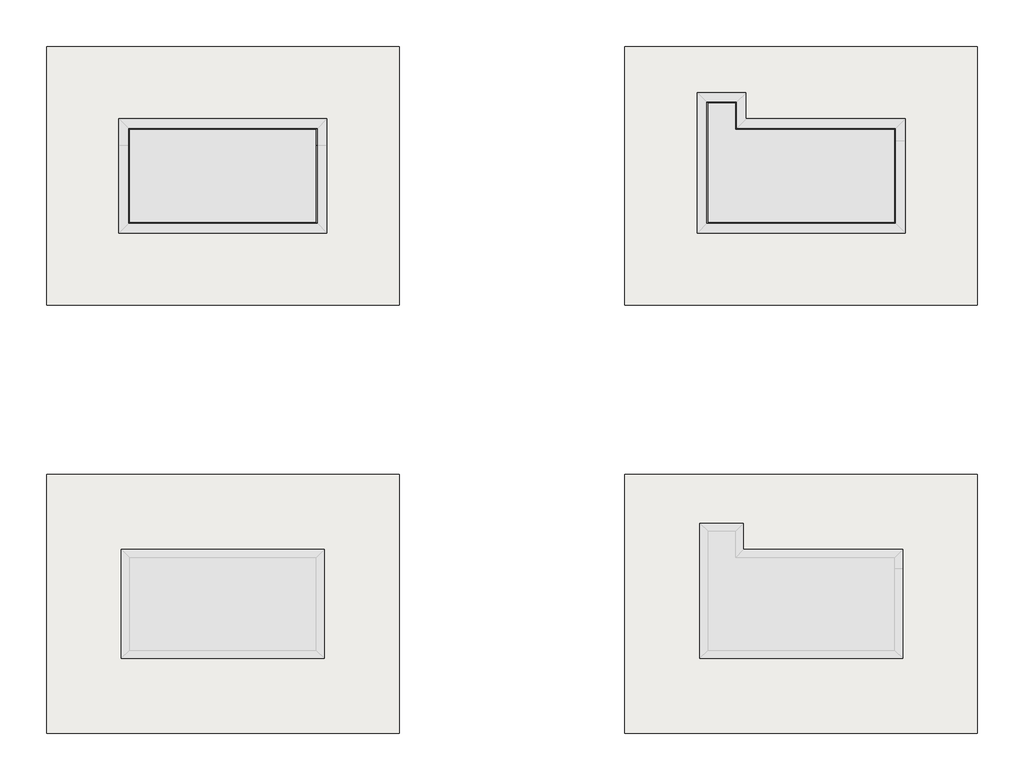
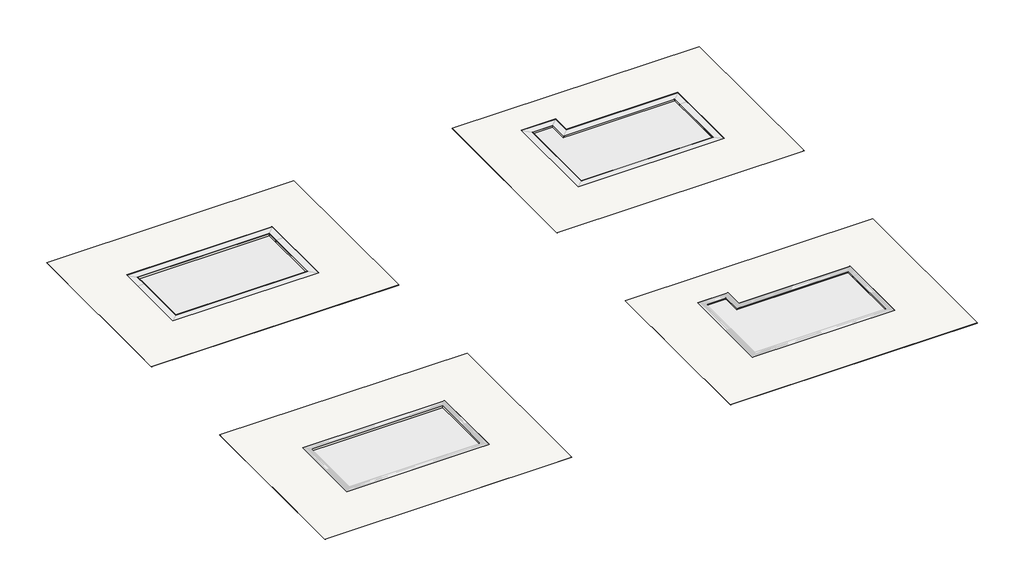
# One storey, part 1 of 5: 24 walls, 8 slabs, 2 stair flights.
"""IFC4 building model written with IfcOpenShell, lengths in millimetres."""

from ifc_helpers import new_model, si_unit, frame, origin, place, context, project, spatial, polyline, outline, extrude, faceted_brep, element, save

model = new_model("IFC4")

# Units and contexts
model_context = context("Model", 3, world=origin())
ifc_project = project(units=[si_unit("LENGTHUNIT", "METRE", prefix="MILLI")], contexts=[model_context])

# Site, building, storey
site = spatial("IfcSite", under=ifc_project)
building = spatial("IfcBuilding", under=site)
storey = spatial("IfcBuildingStorey", under=building, Name="EXAGRES_Serie MILAN_Piscinas_ejemplo", Elevation=0.0)

# Slabs
placement = place(None, origin())
element("IfcSlab", 1, ObjectType="Exagres_Milan_Arena_Piscina_75x75_C3_Rect", at=placement, inside=storey, context=model_context, shape_type="SweptSolid", body=[
    extrude(outline(polyline([(-1511.0, -5240.3281341), (-1500.0, -5240.3281341), (-1500.0, -7470.3292468), (-500.0, -11470.3292468), (-500.0, -13700.3303596), (-511.0, -13700.3303596), (-511.0, -11470.3292468), (-1511.0, -7470.3292468), (-1511.0, -5240.3281341)])), frame((0.0, 4424.1431931, 0.0), z_axis=(0.0, 1.0, 0.0), x_axis=(0.0, 0.0, 1.0)), (0.0, 0.0, 1.0), 4460.0022255),
])
element("IfcSlab", 2, ObjectType="Exagres_Milan_Arena_Base_75x75_C3_Rect", at=placement, inside=storey, context=model_context, shape_type="SweptSolid", body=[
    extrude(outline(polyline([(-1940.3281341, 12184.1454186), (-1940.3281341, 1124.1431931), (-17000.3303596, 1124.1431931), (-17000.3303596, 12184.1454186), (-1940.3281341, 12184.1454186)]), holes=[polyline([(-5028.6743204, 9095.7992323), (-13911.9841733, 9095.7992323), (-13911.9841733, 4212.4893794), (-5028.6743204, 4212.4893794), (-5028.6743204, 9095.7992323)])]), frame((0.0, 0.0, 19.0), z_axis=(0.0, 0.0, 1.0), x_axis=(1.0, 0.0, 0.0)), (0.0, 0.0, 1.0), 11.0),
])
element("IfcSlab", 3, ObjectType="Exagres_Milan_Marengo_Piscina_75x75_C3_Solera", at=placement, inside=storey, context=model_context, shape_type="Brep", body=[
    faceted_brep([(19459.6718659, 8884.1454186, -1611.0), (19459.6718659, 8884.1454186, -1500.0), (19459.6718659, 4424.1431931, -1500.0), (19459.6718659, 4424.1431931, -1611.0), (17229.6707532, 4424.1431931, -1500.0), (13229.6707532, 4424.1431931, -500.0), (10999.6696404, 4424.1431931, -500.0), (10999.6696404, 4424.1431931, -611.0), (13229.6707532, 4424.1431931, -611.0), (17229.6707532, 4424.1431931, -1611.0), (10999.6696404, 8884.1454186, -500.0), (10999.6696404, 8884.1454186, -611.0), (13229.6707532, 8884.1454186, -500.0), (17229.6707532, 8884.1454186, -1500.0), (17229.6707532, 8884.1454186, -1611.0), (13229.6707532, 8884.1454186, -611.0), (13229.6707532, 8654.1443058, -500.0), (13229.6707532, 8879.1443058, -500.0), (17229.6707532, 8879.1443058, -1500.0), (17229.6707532, 8654.1443058, -1500.0)], [[[0, 1, 2, 3]], [[3, 2, 4, 5, 6, 7, 8, 9]], [[7, 6, 10, 11]], [[11, 10, 12, 13, 1, 0, 14, 15]], [[10, 6, 5, 16, 17, 12]], [[11, 15, 8, 7]], [[2, 1, 13, 18, 19, 4]], [[3, 9, 14, 0]], [[5, 4, 19, 18, 13, 12, 17, 16]], [[8, 15, 14, 9]]]),
])
element("IfcSlab", 4, ObjectType="Exagres_Milan_Marengo_Base_75x75_C3_Rect", at=placement, inside=storey, context=model_context, shape_type="SweptSolid", body=[
    extrude(outline(polyline([(22759.6718659, 12184.1454186), (22759.6718659, 1124.1431931), (7699.6696404, 1124.1431931), (7699.6696404, 12184.1454186), (22759.6718659, 12184.1454186)]), holes=[polyline([(19671.3256796, 9095.7992323), (12871.3256796, 9095.7992323), (12871.3256796, 10215.7992323), (10788.0158267, 10215.7992323), (10788.0158267, 4212.4893794), (19671.3256796, 4212.4893794), (19671.3256796, 9095.7992323)])]), frame((0.0, 0.0, 19.0), z_axis=(0.0, 0.0, 1.0), x_axis=(1.0, 0.0, 0.0)), (0.0, 0.0, 1.0), 11.0),
])
element("IfcSlab", 5, ObjectType="Exagres_Milan_Gris_Piscina_75x75_C3_Rect", at=placement, inside=storey, context=model_context, shape_type="SweptSolid", body=[
    extrude(outline(polyline([(-1511.0, -5240.3281341), (-1500.0, -5240.3281341), (-1500.0, -7470.3292468), (-500.0, -11470.3292468), (-500.0, -13700.3303596), (-511.0, -13700.3303596), (-511.0, -11470.3292468), (-1511.0, -7470.3292468), (-1511.0, -5240.3281341)])), frame((0.0, -13869.7047073, 0.0), z_axis=(0.0, 1.0, 0.0), x_axis=(0.0, 0.0, 1.0)), (0.0, 0.0, 1.0), 4460.0022255),
])
element("IfcSlab", 6, ObjectType="Exagres_Milan_Gris_Base_33x33_C3", at=placement, inside=storey, context=model_context, shape_type="SweptSolid", body=[
    extrude(outline(polyline([(-1940.3281341, -6109.7024818), (-1940.3281341, -17169.7047073), (-17000.3303596, -17169.7047073), (-17000.3303596, -6109.7024818), (-1940.3281341, -6109.7024818)]), holes=[polyline([(-5140.3292468, -9309.7035945), (-13800.3292468, -9309.7035945), (-13800.3292468, -13969.7035945), (-5140.3292468, -13969.7035945), (-5140.3292468, -9309.7035945)])]), frame((0.0, 0.0, 20.0), z_axis=(0.0, 0.0, 1.0), x_axis=(1.0, 0.0, 0.0)), (0.0, 0.0, 1.0), 10.0),
])
element("IfcSlab", 7, ObjectType="Exagres_Milan_Arena_Piscina_75x75_C3_Rect", at=placement, inside=storey, context=model_context, shape_type="Brep", body=[
    faceted_brep([(19459.6718659, -9409.7024818, -1511.0), (19459.6718659, -9409.7024818, -1500.0), (19459.6718659, -13869.7047073, -1500.0), (19459.6718659, -13869.7047073, -1511.0), (17229.6707532, -13869.7047073, -1500.0), (13229.6707532, -13869.7047073, -500.0), (10999.6696404, -13869.7047073, -500.0), (10999.6696404, -13869.7047073, -511.0), (13229.6707532, -13869.7047073, -511.0), (17229.6707532, -13869.7047073, -1511.0), (10999.6696404, -9409.7024818, -500.0), (10999.6696404, -9409.7024818, -511.0), (13229.6707532, -9409.7024818, -500.0), (17229.6707532, -9409.7024818, -1500.0), (17229.6707532, -9409.7024818, -1511.0), (13229.6707532, -9409.7024818, -511.0), (13229.6707532, -13864.7035945, -500.0), (13229.6707532, -13639.7035945, -500.0), (13229.6707532, -9639.7035945, -500.0), (13229.6707532, -9414.7035945, -500.0), (13229.6707532, -13639.7035945, -511.0), (13229.6707532, -13864.7035945, -511.0), (17229.6707532, -9414.7035945, -1500.0), (17229.6707532, -9639.7035945, -1500.0)], [[[0, 1, 2, 3]], [[3, 2, 4, 5, 6, 7, 8, 9]], [[7, 6, 10, 11]], [[11, 10, 12, 13, 1, 0, 14, 15]], [[10, 6, 5, 16, 17, 18, 19, 12]], [[11, 15, 20, 21, 8, 7]], [[2, 1, 13, 22, 23, 4]], [[3, 9, 14, 0]], [[5, 4, 23, 22, 13, 12, 19, 18, 17, 16]], [[8, 21, 20, 15, 14, 9]]]),
])
element("IfcSlab", 8, ObjectType="Exagres_Milan_Arena_Base_75x75_C3_Rect", at=placement, inside=storey, context=model_context, shape_type="SweptSolid", body=[
    extrude(outline(polyline([(22759.6718659, -6109.7024818), (22759.6718659, -17169.7047073), (7699.6696404, -17169.7047073), (7699.6696404, -6109.7024818), (22759.6718659, -6109.7024818)]), holes=[polyline([(19559.6707532, -9309.7035945), (12759.6707532, -9309.7035945), (12759.6707532, -8189.7035945), (10899.6707532, -8189.7035945), (10899.6707532, -13969.7035945), (19559.6707532, -13969.7035945), (19559.6707532, -9309.7035945)])]), frame((0.0, 0.0, 19.0), z_axis=(0.0, 0.0, 1.0), x_axis=(1.0, 0.0, 0.0)), (0.0, 0.0, 1.0), 11.0),
])

# Stair flights
element("IfcStairFlight", 9, ObjectType="EXAGRES_Recto - Milán Marengo C3", at=placement, inside=storey, context=model_context, shape_type="SolidModel", body=[
    faceted_brep([(11229.6707532, 8949.1443058, -415.0), (11229.6707532, 8669.1443058, -415.0), (12429.6707532, 8669.1443058, -415.0), (12429.6707532, 8949.1443058, -415.0), (11229.6707532, 8949.1443058, -500.0), (11229.6707532, 8669.1443058, -500.0), (12429.6707532, 8669.1443058, -500.0), (12429.6707532, 8949.1443058, -500.0), (11229.6707532, 9229.1443058, -315.0), (11229.6707532, 8949.1443058, -315.0), (12429.6707532, 8949.1443058, -315.0), (12429.6707532, 9229.1443058, -315.0), (11229.6707532, 9229.1443058, -484.8979285), (11229.6707532, 9186.8585057, -500.0), (12429.6707532, 9186.8585057, -500.0), (12429.6707532, 9229.1443058, -484.8979285), (11229.6707532, 9509.1443058, -384.8979285), (11229.6707532, 9774.1443058, -290.2550714), (12429.6707532, 9774.1443058, -290.2550714), (12429.6707532, 9509.1443058, -384.8979285), (11229.6707532, 9509.1443058, -215.0), (11229.6707532, 9229.1443058, -215.0), (12429.6707532, 9229.1443058, -215.0), (12429.6707532, 9509.1443058, -215.0), (11229.6707532, 9774.1443058, -115.0), (11229.6707532, 9509.1443058, -115.0), (12429.6707532, 9509.1443058, -115.0), (12429.6707532, 9774.1443058, -115.0)], [[[0, 1, 2, 3]], [[1, 0, 4, 5]], [[2, 1, 5, 6]], [[3, 2, 6, 7]], [[8, 9, 10, 11]], [[4, 0, 9, 8, 12, 13]], [[0, 3, 10, 9]], [[3, 7, 14, 15, 11, 10]], [[5, 4, 13, 14, 7, 6]], [[14, 13, 12, 16, 17, 18, 19, 15]], [[20, 21, 22, 23]], [[21, 20, 16, 12, 8]], [[8, 11, 22, 21]], [[23, 22, 11, 15, 19]], [[24, 25, 26, 27]], [[25, 24, 17, 16, 20]], [[20, 23, 26, 25]], [[27, 26, 23, 19, 18]], [[24, 27, 18, 17]]]),
    extrude(outline(polyline([(8949.1443058, -415.0), (8672.0538547, -415.0), (8672.0538547, -412.0), (8667.1443058, -412.0), (8667.1443058, -419.0), (8666.1443058, -419.0), (8666.1443058, -425.0), (8667.1443058, -425.0), (8667.1443058, -433.0), (8654.1443058, -433.0), (8654.1443058, -400.0), (8949.1443058, -400.0), (8949.1443058, -415.0)])), frame((11229.6707532, 0.0, 0.0), z_axis=(1.0, 0.0, 0.0), x_axis=(0.0, 1.0, 0.0)), (0.0, 0.0, 1.0), 1200.0),
    extrude(outline(polyline([(12429.6707532, 8669.1443058), (12429.6707532, 8654.1443058), (11229.6707532, 8654.1443058), (11229.6707532, 8669.1443058), (12429.6707532, 8669.1443058)])), frame((0.0, 0.0, -500.0), z_axis=(0.0, 0.0, 1.0), x_axis=(1.0, 0.0, 0.0)), (0.0, 0.0, 1.0), 67.0),
    extrude(outline(polyline([(12429.6707532, 8949.1443058), (12429.6707532, 8934.1443058), (11229.6707532, 8934.1443058), (11229.6707532, 8949.1443058), (12429.6707532, 8949.1443058)])), frame((0.0, 0.0, -400.0), z_axis=(0.0, 0.0, 1.0), x_axis=(1.0, 0.0, 0.0)), (0.0, 0.0, 1.0), 67.0),
    extrude(outline(polyline([(9229.1443058, -315.0), (8952.0538547, -315.0), (8952.0538547, -312.0), (8947.1443058, -312.0), (8947.1443058, -319.0), (8946.1443058, -319.0), (8946.1443058, -325.0), (8947.1443058, -325.0), (8947.1443058, -333.0), (8934.1443058, -333.0), (8934.1443058, -300.0), (9229.1443058, -300.0), (9229.1443058, -315.0)])), frame((11229.6707532, 0.0, 0.0), z_axis=(1.0, 0.0, 0.0), x_axis=(0.0, 1.0, 0.0)), (0.0, 0.0, 1.0), 1200.0),
    extrude(outline(polyline([(12429.6707532, 9229.1443058), (12429.6707532, 9214.1443058), (11229.6707532, 9214.1443058), (11229.6707532, 9229.1443058), (12429.6707532, 9229.1443058)])), frame((0.0, 0.0, -300.0), z_axis=(0.0, 0.0, 1.0), x_axis=(1.0, 0.0, 0.0)), (0.0, 0.0, 1.0), 67.0),
    extrude(outline(polyline([(9509.1443058, -215.0), (9232.0538547, -215.0), (9232.0538547, -212.0), (9227.1443058, -212.0), (9227.1443058, -219.0), (9226.1443058, -219.0), (9226.1443058, -225.0), (9227.1443058, -225.0), (9227.1443058, -233.0), (9214.1443058, -233.0), (9214.1443058, -200.0), (9509.1443058, -200.0), (9509.1443058, -215.0)])), frame((11229.6707532, 0.0, 0.0), z_axis=(1.0, 0.0, 0.0), x_axis=(0.0, 1.0, 0.0)), (0.0, 0.0, 1.0), 1200.0),
    extrude(outline(polyline([(12429.6707532, 9509.1443058), (12429.6707532, 9494.1443058), (11229.6707532, 9494.1443058), (11229.6707532, 9509.1443058), (12429.6707532, 9509.1443058)])), frame((0.0, 0.0, -200.0), z_axis=(0.0, 0.0, 1.0), x_axis=(1.0, 0.0, 0.0)), (0.0, 0.0, 1.0), 67.0),
    extrude(outline(polyline([(9774.1443058, -115.0), (9512.0538547, -115.0), (9512.0538547, -112.0), (9507.1443058, -112.0), (9507.1443058, -119.0), (9506.1443058, -119.0), (9506.1443058, -125.0), (9507.1443058, -125.0), (9507.1443058, -133.0), (9494.1443058, -133.0), (9494.1443058, -100.0), (9774.1443058, -100.0), (9774.1443058, -115.0)])), frame((11229.6707532, 0.0, 0.0), z_axis=(1.0, 0.0, 0.0), x_axis=(0.0, 1.0, 0.0)), (0.0, 0.0, 1.0), 1200.0),
])
element("IfcStairFlight", 10, ObjectType="EXAGRES_Recto - Milán Arena C3", at=placement, inside=storey, context=model_context, shape_type="SolidModel", body=[
    faceted_brep([(11229.6707532, -9344.7035945, -415.0), (11229.6707532, -9624.7035945, -415.0), (12429.6707532, -9624.7035945, -415.0), (12429.6707532, -9344.7035945, -415.0), (11229.6707532, -9344.7035945, -500.0), (11229.6707532, -9624.7035945, -500.0), (12429.6707532, -9624.7035945, -500.0), (12429.6707532, -9344.7035945, -500.0), (11229.6707532, -9064.7035945, -315.0), (11229.6707532, -9344.7035945, -315.0), (12429.6707532, -9344.7035945, -315.0), (12429.6707532, -9064.7035945, -315.0), (11229.6707532, -9064.7035945, -484.8979285), (11229.6707532, -9106.9893946, -500.0), (12429.6707532, -9106.9893946, -500.0), (12429.6707532, -9064.7035945, -484.8979285), (11229.6707532, -8784.7035945, -384.8979285), (11229.6707532, -8519.7035945, -290.2550714), (12429.6707532, -8519.7035945, -290.2550714), (12429.6707532, -8784.7035945, -384.8979285), (11229.6707532, -8784.7035945, -215.0), (11229.6707532, -9064.7035945, -215.0), (12429.6707532, -9064.7035945, -215.0), (12429.6707532, -8784.7035945, -215.0), (11229.6707532, -8519.7035945, -115.0), (11229.6707532, -8784.7035945, -115.0), (12429.6707532, -8784.7035945, -115.0), (12429.6707532, -8519.7035945, -115.0)], [[[0, 1, 2, 3]], [[1, 0, 4, 5]], [[2, 1, 5, 6]], [[3, 2, 6, 7]], [[8, 9, 10, 11]], [[4, 0, 9, 8, 12, 13]], [[0, 3, 10, 9]], [[3, 7, 14, 15, 11, 10]], [[5, 4, 13, 14, 7, 6]], [[14, 13, 12, 16, 17, 18, 19, 15]], [[20, 21, 22, 23]], [[21, 20, 16, 12, 8]], [[8, 11, 22, 21]], [[23, 22, 11, 15, 19]], [[24, 25, 26, 27]], [[25, 24, 17, 16, 20]], [[20, 23, 26, 25]], [[27, 26, 23, 19, 18]], [[24, 27, 18, 17]]]),
    extrude(outline(polyline([(-9344.7035945, -415.0), (-9621.7940456, -415.0), (-9621.7940456, -412.0), (-9626.7035945, -412.0), (-9626.7035945, -419.0), (-9627.7035945, -419.0), (-9627.7035945, -425.0), (-9626.7035945, -425.0), (-9626.7035945, -433.0), (-9639.7035945, -433.0), (-9639.7035945, -400.0), (-9344.7035945, -400.0), (-9344.7035945, -415.0)])), frame((11229.6707532, 0.0, 0.0), z_axis=(1.0, 0.0, 0.0), x_axis=(0.0, 1.0, 0.0)), (0.0, 0.0, 1.0), 1200.0),
    extrude(outline(polyline([(12429.6707532, -9624.7035945), (12429.6707532, -9639.7035945), (11229.6707532, -9639.7035945), (11229.6707532, -9624.7035945), (12429.6707532, -9624.7035945)])), frame((0.0, 0.0, -500.0), z_axis=(0.0, 0.0, 1.0), x_axis=(1.0, 0.0, 0.0)), (0.0, 0.0, 1.0), 67.0),
    extrude(outline(polyline([(12429.6707532, -9344.7035945), (12429.6707532, -9359.7035945), (11229.6707532, -9359.7035945), (11229.6707532, -9344.7035945), (12429.6707532, -9344.7035945)])), frame((0.0, 0.0, -400.0), z_axis=(0.0, 0.0, 1.0), x_axis=(1.0, 0.0, 0.0)), (0.0, 0.0, 1.0), 67.0),
    extrude(outline(polyline([(-9064.7035945, -315.0), (-9341.7940456, -315.0), (-9341.7940456, -312.0), (-9346.7035945, -312.0), (-9346.7035945, -319.0), (-9347.7035945, -319.0), (-9347.7035945, -325.0), (-9346.7035945, -325.0), (-9346.7035945, -333.0), (-9359.7035945, -333.0), (-9359.7035945, -300.0), (-9064.7035945, -300.0), (-9064.7035945, -315.0)])), frame((11229.6707532, 0.0, 0.0), z_axis=(1.0, 0.0, 0.0), x_axis=(0.0, 1.0, 0.0)), (0.0, 0.0, 1.0), 1200.0),
    extrude(outline(polyline([(12429.6707532, -9064.7035945), (12429.6707532, -9079.7035945), (11229.6707532, -9079.7035945), (11229.6707532, -9064.7035945), (12429.6707532, -9064.7035945)])), frame((0.0, 0.0, -300.0), z_axis=(0.0, 0.0, 1.0), x_axis=(1.0, 0.0, 0.0)), (0.0, 0.0, 1.0), 67.0),
    extrude(outline(polyline([(-8784.7035945, -215.0), (-9061.7940456, -215.0), (-9061.7940456, -212.0), (-9066.7035945, -212.0), (-9066.7035945, -219.0), (-9067.7035945, -219.0), (-9067.7035945, -225.0), (-9066.7035945, -225.0), (-9066.7035945, -233.0), (-9079.7035945, -233.0), (-9079.7035945, -200.0), (-8784.7035945, -200.0), (-8784.7035945, -215.0)])), frame((11229.6707532, 0.0, 0.0), z_axis=(1.0, 0.0, 0.0), x_axis=(0.0, 1.0, 0.0)), (0.0, 0.0, 1.0), 1200.0),
    extrude(outline(polyline([(12429.6707532, -8784.7035945), (12429.6707532, -8799.7035945), (11229.6707532, -8799.7035945), (11229.6707532, -8784.7035945), (12429.6707532, -8784.7035945)])), frame((0.0, 0.0, -200.0), z_axis=(0.0, 0.0, 1.0), x_axis=(1.0, 0.0, 0.0)), (0.0, 0.0, 1.0), 67.0),
    extrude(outline(polyline([(-8519.7035945, -115.0), (-8781.7940456, -115.0), (-8781.7940456, -112.0), (-8786.7035945, -112.0), (-8786.7035945, -119.0), (-8787.7035945, -119.0), (-8787.7035945, -125.0), (-8786.7035945, -125.0), (-8786.7035945, -133.0), (-8799.7035945, -133.0), (-8799.7035945, -100.0), (-8519.7035945, -100.0), (-8519.7035945, -115.0)])), frame((11229.6707532, 0.0, 0.0), z_axis=(1.0, 0.0, 0.0), x_axis=(0.0, 1.0, 0.0)), (0.0, 0.0, 1.0), 1200.0),
])

# Walls
element("IfcWall", 11, ObjectType="Exagres_Piscina Skimmer - Borde 45x75 - Milan Arena -", at=placement, inside=storey, context=model_context, shape_type="Brep", body=[
    faceted_brep([(-5470.3292468, 8654.1443058, 0.0), (-13470.3292468, 8654.1443058, 0.0), (-13470.3292468, 8654.1443058, -500.0), (-11470.3292468, 8654.1443058, -500.0), (-7470.3292468, 8654.1443058, -1500.0), (-5470.3292468, 8654.1443058, -1500.0), (-13695.3292468, 8879.1443058, -200.0), (-5245.3292468, 8879.1443058, -200.0), (-5245.3292468, 8879.1443058, -1500.0), (-7470.3292468, 8879.1443058, -1500.0), (-11470.3292468, 8879.1443058, -500.0), (-13695.3292468, 8879.1443058, -500.0), (-5445.3292468, 8679.1443058, -200.0), (-13495.3292468, 8679.1443058, -200.0), (-13495.3292468, 8679.1443058, 0.0), (-5445.3292468, 8679.1443058, 0.0), (-5458.1125833, 8666.3609694, 0.0), (-5452.9261525, 8671.5474002, 0.0), (-13487.7323412, 8671.5474002, 0.0), (-13482.5459104, 8666.3609694, 0.0)], [[[0, 1, 2, 3, 4, 5]], [[6, 7, 8, 9, 10, 11]], [[12, 13, 14, 15]], [[13, 12, 7, 6]], [[1, 0, 16, 17, 15, 14, 18, 19]], [[10, 3, 2, 11]], [[4, 9, 8, 5]], [[3, 10, 9, 4]], [[13, 6, 11, 2, 1, 19, 18, 14]], [[7, 12, 15, 17, 16, 0, 5, 8]]]),
])
element("IfcWall", 12, ObjectType="Exagres_Piscina Skimmer - Borde 45x75 - Milan Arena -", at=placement, inside=storey, context=model_context, shape_type="Brep", body=[
    faceted_brep([(-5470.3292468, 8654.1443058, -1510.0), (-5470.3292468, 7954.1443058, -1510.0), (-5470.3292468, 7954.1443058, 0.0), (-5470.3292468, 8654.1443058, 0.0), (-5245.3292468, 7954.1443058, -1510.0), (-5245.3292468, 8879.1443058, -1510.0), (-5245.3292468, 8879.1443058, -200.0), (-5245.3292468, 7954.1443058, -200.0), (-5445.3292468, 7954.1443058, -200.0), (-5445.3292468, 7954.1443058, 0.0), (-5452.9261525, 7954.1443058, 0.0), (-5458.1125833, 7954.1443058, 0.0), (-5445.3292468, 8679.1443058, 0.0), (-5452.9261525, 8671.5474002, 0.0), (-5458.1125833, 8666.3609694, 0.0), (-5445.3292468, 8679.1443058, -200.0)], [[[0, 1, 2, 3]], [[4, 5, 6, 7]], [[1, 0, 5, 4]], [[2, 1, 4, 7, 8, 9, 10, 11]], [[3, 2, 11, 10, 9, 12, 13, 14]], [[8, 15, 12, 9]], [[15, 8, 7, 6]], [[0, 3, 14, 13, 12, 15, 6, 5]]]),
])
element("IfcWall", 13, ObjectType="Exagres_Piscina Skimmer - Borde 45x75 - Milan Arena -", at=placement, inside=storey, context=model_context, shape_type="Brep", body=[
    faceted_brep([(-13470.3292468, 4654.1443058, 0.0), (-5470.3292468, 4654.1443058, 0.0), (-5470.3292468, 4654.1443058, -1510.0), (-7331.8303596, 4654.1443058, -1510.0), (-11608.8281341, 4654.1443058, -510.0), (-13470.3292468, 4654.1443058, -510.0), (-7331.8303596, 4429.1443058, -1510.0), (-5245.3292468, 4429.1443058, -1510.0), (-5245.3292468, 4429.1443058, -200.0), (-13695.3292468, 4429.1443058, -200.0), (-13695.3292468, 4429.1443058, -510.0), (-11608.8281341, 4429.1443058, -510.0), (-13495.3292468, 4629.1443058, -200.0), (-5445.3292468, 4629.1443058, -200.0), (-5445.3292468, 4629.1443058, 0.0), (-13495.3292468, 4629.1443058, 0.0), (-13482.5459104, 4641.9276423, 0.0), (-13487.7323412, 4636.7412115, 0.0), (-5452.9261525, 4636.7412115, 0.0), (-5458.1125833, 4641.9276423, 0.0)], [[[0, 1, 2, 3, 4, 5]], [[6, 7, 8, 9, 10, 11]], [[12, 13, 14, 15]], [[13, 12, 9, 8]], [[1, 0, 16, 17, 15, 14, 18, 19]], [[3, 2, 7, 6]], [[4, 3, 6, 11]], [[5, 4, 11, 10]], [[2, 1, 19, 18, 14, 13, 8, 7]], [[0, 5, 10, 9, 12, 15, 17, 16]]]),
])
element("IfcWall", 14, ObjectType="Exagres_Piscina Skimmer - Borde 45x75 - Milan Arena -", at=placement, inside=storey, context=model_context, shape_type="Brep", body=[
    faceted_brep([(-13470.3292468, 4654.1443058, -500.0), (-13470.3292468, 7954.1443058, -500.0), (-13470.3292468, 7954.1443058, 0.0), (-13470.3292468, 4654.1443058, 0.0), (-13695.3292468, 7954.1443058, -500.0), (-13695.3292468, 4429.1443058, -500.0), (-13695.3292468, 4429.1443058, -200.0), (-13695.3292468, 7954.1443058, -200.0), (-13495.3292468, 7954.1443058, -200.0), (-13495.3292468, 7954.1443058, 0.0), (-13487.7323412, 7954.1443058, 0.0), (-13482.5459104, 7954.1443058, 0.0), (-13495.3292468, 4629.1443058, 0.0), (-13487.7323412, 4636.7412115, 0.0), (-13482.5459104, 4641.9276423, 0.0), (-13495.3292468, 4629.1443058, -200.0)], [[[0, 1, 2, 3]], [[4, 5, 6, 7]], [[1, 0, 5, 4]], [[2, 1, 4, 7, 8, 9, 10, 11]], [[3, 2, 11, 10, 9, 12, 13, 14]], [[8, 15, 12, 9]], [[15, 8, 7, 6]], [[0, 3, 14, 13, 12, 15, 6, 5]]]),
])
element("IfcWall", 15, ObjectType="Exagres_Piscina Skimmer - Borde 45x75 - Milan Marengo -", at=placement, inside=storey, context=model_context, shape_type="Brep", body=[
    faceted_brep([(19229.6707532, 8654.1443058, 0.0), (12429.6707532, 8654.1443058, 0.0), (12429.6707532, 8654.1443058, -500.0), (13229.6707532, 8654.1443058, -500.0), (17229.6707532, 8654.1443058, -1500.0), (19229.6707532, 8654.1443058, -1500.0), (12654.6707532, 8879.1443058, -200.0), (19454.6707532, 8879.1443058, -200.0), (19454.6707532, 8879.1443058, -1500.0), (17229.6707532, 8879.1443058, -1500.0), (13229.6707532, 8879.1443058, -500.0), (12654.6707532, 8879.1443058, -500.0), (19254.6707532, 8679.1443058, -200.0), (12454.6707532, 8679.1443058, -200.0), (12454.6707532, 8679.1443058, 0.0), (19254.6707532, 8679.1443058, 0.0), (19241.8874167, 8666.3609694, 0.0), (19247.0738475, 8671.5474002, 0.0), (12447.0738475, 8671.5474002, 0.0), (12441.8874167, 8666.3609694, 0.0)], [[[0, 1, 2, 3, 4, 5]], [[6, 7, 8, 9, 10, 11]], [[12, 13, 14, 15]], [[13, 12, 7, 6]], [[1, 0, 16, 17, 15, 14, 18, 19]], [[14, 13, 6, 11, 2, 1, 19, 18]], [[7, 12, 15, 17, 16, 0, 5, 8]], [[10, 3, 2, 11]], [[4, 9, 8, 5]], [[3, 10, 9, 4]]]),
])
element("IfcWall", 16, ObjectType="Exagres_Piscina Skimmer - Borde 45x75 - Milan Marengo -", at=placement, inside=storey, context=model_context, shape_type="Brep", body=[
    faceted_brep([(19229.6707532, 8654.1443058, -1510.0), (19229.6707532, 8146.6443058, -1510.0), (19229.6707532, 8146.6443058, 0.0), (19229.6707532, 8654.1443058, 0.0), (19454.6707532, 8146.6443058, -1510.0), (19454.6707532, 8879.1443058, -1510.0), (19454.6707532, 8879.1443058, -200.0), (19454.6707532, 8146.6443058, -200.0), (19254.6707532, 8146.6443058, -200.0), (19254.6707532, 8146.6443058, 0.0), (19247.0738475, 8146.6443058, 0.0), (19241.8874167, 8146.6443058, 0.0), (19254.6707532, 8679.1443058, 0.0), (19247.0738475, 8671.5474002, 0.0), (19241.8874167, 8666.3609694, 0.0), (19254.6707532, 8679.1443058, -200.0)], [[[0, 1, 2, 3]], [[4, 5, 6, 7]], [[1, 0, 5, 4]], [[2, 1, 4, 7, 8, 9, 10, 11]], [[3, 2, 11, 10, 9, 12, 13, 14]], [[8, 15, 12, 9]], [[15, 8, 7, 6]], [[0, 3, 14, 13, 12, 15, 6, 5]]]),
])
element("IfcWall", 17, ObjectType="Exagres_Piscina Skimmer - Borde 45x75 - Milan Marengo -", at=placement, inside=storey, context=model_context, shape_type="Brep", body=[
    faceted_brep([(19454.6707532, 4654.1443058, -1510.0), (19229.6707532, 4654.1443058, -1510.0), (17368.1696404, 4654.1443058, -1510.0), (13091.1718659, 4654.1443058, -510.0), (11229.6707532, 4654.1443058, -510.0), (11229.6707532, 4654.1443058, 0.0), (19229.6707532, 4654.1443058, 0.0), (19241.8874167, 4654.1443058, 0.0), (19247.0738475, 4654.1443058, 0.0), (19254.6707532, 4654.1443058, 0.0), (19254.6707532, 4654.1443058, -200.0), (19454.6707532, 4654.1443058, -200.0), (17368.1696404, 4429.1443058, -1510.0), (19454.6707532, 4429.1443058, -1510.0), (19454.6707532, 4429.1443058, -200.0), (11004.6707532, 4429.1443058, -200.0), (11004.6707532, 4429.1443058, -510.0), (13091.1718659, 4429.1443058, -510.0), (11204.6707532, 4629.1443058, -200.0), (19254.6707532, 4629.1443058, -200.0), (19254.6707532, 4629.1443058, 0.0), (11204.6707532, 4629.1443058, 0.0), (11217.4540896, 4641.9276423, 0.0), (11212.2676588, 4636.7412115, 0.0)], [[[0, 1, 2, 3, 4, 5, 6, 7, 8, 9, 10, 11]], [[12, 13, 14, 15, 16, 17]], [[18, 19, 20, 21]], [[19, 18, 15, 14, 11, 10]], [[20, 19, 10, 9]], [[6, 5, 22, 23, 21, 20, 9, 8, 7]], [[2, 1, 0, 13, 12]], [[3, 2, 12, 17]], [[4, 3, 17, 16]], [[5, 4, 16, 15, 18, 21, 23, 22]], [[13, 0, 11, 14]]]),
])
element("IfcWall", 18, ObjectType="Exagres_Piscina Skimmer - Borde 45x75 - Milan Marengo -", at=placement, inside=storey, context=model_context, shape_type="Brep", body=[
    faceted_brep([(11229.6707532, 4654.1443058, -500.0), (11229.6707532, 9774.1443058, -500.0), (11229.6707532, 9774.1443058, 0.0), (11229.6707532, 4654.1443058, 0.0), (11004.6707532, 9999.1443058, -500.0), (11004.6707532, 4429.1443058, -500.0), (11004.6707532, 4429.1443058, -200.0), (11004.6707532, 9999.1443058, -200.0), (11217.4540896, 9786.3609694, 0.0), (11212.2676588, 9791.5474002, 0.0), (11204.6707532, 9799.1443058, 0.0), (11204.6707532, 4629.1443058, 0.0), (11212.2676588, 4636.7412115, 0.0), (11217.4540896, 4641.9276423, 0.0), (11204.6707532, 9799.1443058, -200.0), (11204.6707532, 4629.1443058, -200.0)], [[[0, 1, 2, 3]], [[4, 5, 6, 7]], [[1, 0, 5, 4]], [[3, 2, 8, 9, 10, 11, 12, 13]], [[14, 15, 11, 10]], [[15, 14, 7, 6]], [[2, 1, 4, 7, 14, 10, 9, 8]], [[0, 3, 13, 12, 11, 15, 6, 5]]]),
])
element("IfcWall", 19, ObjectType="Exagres_Piscina Skimmer - Borde 45x75 - Milan Marengo -", at=placement, inside=storey, context=model_context, shape_type="Brep", body=[
    faceted_brep([(12654.6707532, 8879.1443058, -500.0), (12654.6707532, 9999.1443058, -500.0), (12654.6707532, 9999.1443058, -200.0), (12654.6707532, 8879.1443058, -200.0), (12429.6707532, 9774.1443058, -500.0), (12429.6707532, 8654.1443058, -500.0), (12429.6707532, 8654.1443058, 0.0), (12429.6707532, 9774.1443058, 0.0), (12441.8874167, 8666.3609694, 0.0), (12447.0738475, 8671.5474002, 0.0), (12454.6707532, 8679.1443058, 0.0), (12454.6707532, 9799.1443058, 0.0), (12447.0738475, 9791.5474002, 0.0), (12441.8874167, 9786.3609694, 0.0), (12454.6707532, 8679.1443058, -200.0), (12454.6707532, 9799.1443058, -200.0)], [[[0, 1, 2, 3]], [[4, 5, 6, 7]], [[1, 0, 5, 4]], [[7, 6, 8, 9, 10, 11, 12, 13]], [[14, 15, 11, 10]], [[6, 5, 0, 3, 14, 10, 9, 8]], [[15, 14, 3, 2]], [[1, 4, 7, 13, 12, 11, 15, 2]]]),
])
element("IfcWall", 20, ObjectType="Exagres_Piscina Skimmer - Borde 45x75 - Milan Marengo -", at=placement, inside=storey, context=model_context, shape_type="Brep", body=[
    faceted_brep([(11229.6707532, 9774.1443058, -250.0), (12429.6707532, 9774.1443058, -250.0), (12429.6707532, 9774.1443058, 0.0), (11229.6707532, 9774.1443058, 0.0), (12654.6707532, 9999.1443058, -250.0), (11004.6707532, 9999.1443058, -250.0), (11004.6707532, 9999.1443058, -200.0), (12654.6707532, 9999.1443058, -200.0), (12441.8874167, 9786.3609694, 0.0), (12447.0738475, 9791.5474002, 0.0), (12454.6707532, 9799.1443058, 0.0), (11204.6707532, 9799.1443058, 0.0), (11212.2676588, 9791.5474002, 0.0), (11217.4540896, 9786.3609694, 0.0), (12454.6707532, 9799.1443058, -200.0), (11204.6707532, 9799.1443058, -200.0)], [[[0, 1, 2, 3]], [[4, 5, 6, 7]], [[1, 0, 5, 4]], [[3, 2, 8, 9, 10, 11, 12, 13]], [[14, 15, 11, 10]], [[0, 3, 13, 12, 11, 15, 6, 5]], [[2, 1, 4, 7, 14, 10, 9, 8]], [[15, 14, 7, 6]]]),
])
element("IfcWall", 21, ObjectType="Exagres_Piscina Skimmer - Borde 45x75 - Milan Arena -", at=placement, inside=storey, context=model_context, shape_type="Brep", body=[
    faceted_brep([(-13470.3292468, 7954.1443058, -500.0), (-13470.3292468, 8654.1443058, -500.0), (-13470.3292468, 8654.1443058, 0.0), (-13470.3292468, 7954.1443058, 0.0), (-13695.3292468, 8879.1443058, -500.0), (-13695.3292468, 7954.1443058, -500.0), (-13695.3292468, 7954.1443058, -200.0), (-13695.3292468, 8879.1443058, -200.0), (-13482.5459104, 8666.3609694, 0.0), (-13487.7323412, 8671.5474002, 0.0), (-13495.3292468, 8679.1443058, 0.0), (-13495.3292468, 7954.1443058, 0.0), (-13487.7323412, 7954.1443058, 0.0), (-13482.5459104, 7954.1443058, 0.0), (-13495.3292468, 7954.1443058, -200.0), (-13495.3292468, 8679.1443058, -200.0)], [[[0, 1, 2, 3]], [[4, 5, 6, 7]], [[1, 0, 5, 4]], [[3, 2, 8, 9, 10, 11, 12, 13]], [[0, 3, 13, 12, 11, 14, 6, 5]], [[2, 1, 4, 7, 15, 10, 9, 8]], [[14, 15, 7, 6]], [[15, 14, 11, 10]]]),
])
element("IfcWall", 22, ObjectType="Exagres_Piscina Skimmer - Borde 45x75 - Milan Arena -", at=placement, inside=storey, context=model_context, shape_type="Brep", body=[
    faceted_brep([(-5470.3292468, 7954.1443058, -1510.0), (-5470.3292468, 4654.1443058, -1510.0), (-5470.3292468, 4654.1443058, 0.0), (-5470.3292468, 7954.1443058, 0.0), (-5245.3292468, 4429.1443058, -1510.0), (-5245.3292468, 7954.1443058, -1510.0), (-5245.3292468, 7954.1443058, -200.0), (-5245.3292468, 4429.1443058, -200.0), (-5458.1125833, 4641.9276423, 0.0), (-5452.9261525, 4636.7412115, 0.0), (-5445.3292468, 4629.1443058, 0.0), (-5445.3292468, 7954.1443058, 0.0), (-5452.9261525, 7954.1443058, 0.0), (-5458.1125833, 7954.1443058, 0.0), (-5445.3292468, 7954.1443058, -200.0), (-5445.3292468, 4629.1443058, -200.0)], [[[0, 1, 2, 3]], [[4, 5, 6, 7]], [[1, 0, 5, 4]], [[3, 2, 8, 9, 10, 11, 12, 13]], [[0, 3, 13, 12, 11, 14, 6, 5]], [[2, 1, 4, 7, 15, 10, 9, 8]], [[14, 15, 7, 6]], [[15, 14, 11, 10]]]),
])
element("IfcWall", 23, ObjectType="Exagres_Piscina Skimmer - Borde 45x75 - Milan Marengo -", at=placement, inside=storey, context=model_context, shape_type="Brep", body=[
    faceted_brep([(19229.6707532, 8146.6443058, -1510.0), (19229.6707532, 4654.1443058, -1510.0), (19229.6707532, 4654.1443058, 0.0), (19229.6707532, 8146.6443058, 0.0), (19454.6707532, 4654.1443058, -1510.0), (19454.6707532, 8146.6443058, -1510.0), (19454.6707532, 8146.6443058, -200.0), (19454.6707532, 4654.1443058, -200.0), (19241.8874167, 4654.1443058, 0.0), (19247.0738475, 4654.1443058, 0.0), (19254.6707532, 4654.1443058, 0.0), (19254.6707532, 8146.6443058, 0.0), (19247.0738475, 8146.6443058, 0.0), (19241.8874167, 8146.6443058, 0.0), (19254.6707532, 8146.6443058, -200.0), (19254.6707532, 4654.1443058, -200.0)], [[[0, 1, 2, 3]], [[4, 5, 6, 7]], [[1, 0, 5, 4]], [[3, 2, 8, 9, 10, 11, 12, 13]], [[0, 3, 13, 12, 11, 14, 6, 5]], [[2, 1, 4, 7, 15, 10, 9, 8]], [[14, 15, 7, 6]], [[15, 14, 11, 10]]]),
])
element("IfcWall", 24, ObjectType="Exagres_Piscina Skimmer - Peldaño 33x120 - Milan Gris -", at=placement, inside=storey, context=model_context, shape_type="Brep", body=[
    faceted_brep([(-5455.3292468, -9639.7035945, -181.26), (-5455.3292468, -9639.7035945, 0.0), (-5470.3292468, -9639.7035945, 0.0), (-13470.3292468, -9639.7035945, 0.0), (-13485.3292468, -9639.7035945, 0.0), (-13485.3292468, -9639.7035945, -181.26), (-13695.3292468, -9639.7035945, -181.26), (-13695.3292468, -9639.7035945, -500.0), (-13470.3292468, -9639.7035945, -500.0), (-11470.3292468, -9639.7035945, -500.0), (-7470.3292468, -9639.7035945, -1500.0), (-5245.3292468, -9639.7035945, -1500.0), (-5245.3292468, -9639.7035945, -181.26), (-13695.3292468, -9414.7035945, -181.26), (-5245.3292468, -9414.7035945, -181.26), (-5245.3292468, -9414.7035945, -1500.0), (-7470.3292468, -9414.7035945, -1500.0), (-11470.3292468, -9414.7035945, -500.0), (-13695.3292468, -9414.7035945, -500.0), (-5455.3292468, -9624.7035945, -181.26), (-13485.3292468, -9624.7035945, -181.26), (-13485.3292468, -9624.7035945, 0.0), (-5455.3292468, -9624.7035945, 0.0)], [[[0, 1, 2, 3, 4, 5, 6, 7, 8, 9, 10, 11, 12]], [[13, 14, 15, 16, 17, 18]], [[19, 20, 21, 22]], [[0, 19, 22, 1]], [[20, 5, 4, 21]], [[20, 19, 0, 12, 14, 13, 6, 5]], [[22, 21, 4, 3, 2, 1]], [[17, 9, 8, 7, 18]], [[10, 16, 15, 11]], [[9, 17, 16, 10]], [[6, 13, 18, 7]], [[14, 12, 11, 15]]]),
])
element("IfcWall", 25, ObjectType="Exagres_Piscina Skimmer - Peldaño 33x120 - Milan Gris -", at=placement, inside=storey, context=model_context, shape_type="Brep", body=[
    faceted_brep([(-13470.3292468, -13639.7035945, 0.0), (-5470.3292468, -13639.7035945, 0.0), (-5470.3292468, -13639.7035945, -1510.0), (-7331.8303596, -13639.7035945, -1510.0), (-11608.8281341, -13639.7035945, -510.0), (-13470.3292468, -13639.7035945, -510.0), (-7331.8303596, -13864.7035945, -1510.0), (-5245.3292468, -13864.7035945, -1510.0), (-5245.3292468, -13864.7035945, -181.26), (-13695.3292468, -13864.7035945, -181.26), (-13695.3292468, -13864.7035945, -510.0), (-11608.8281341, -13864.7035945, -510.0), (-13485.3292468, -13654.7035945, -181.26), (-5455.3292468, -13654.7035945, -181.26), (-5455.3292468, -13654.7035945, 0.0), (-13485.3292468, -13654.7035945, 0.0), (-13483.3292468, -13652.7035945, 0.0), (-5457.3292468, -13652.7035945, 0.0)], [[[0, 1, 2, 3, 4, 5]], [[6, 7, 8, 9, 10, 11]], [[12, 13, 14, 15]], [[13, 12, 9, 8]], [[1, 0, 16, 15, 14, 17]], [[3, 2, 7, 6]], [[4, 3, 6, 11]], [[5, 4, 11, 10]], [[2, 1, 17, 14, 13, 8, 7]], [[0, 5, 10, 9, 12, 15, 16]]]),
])
element("IfcWall", 26, ObjectType="Exagres_Piscina Skimmer - Peldaño 33x120 - Milan Gris -", at=placement, inside=storey, context=model_context, shape_type="Brep", body=[
    faceted_brep([(-13470.3292468, -13639.7035945, -500.0), (-13470.3292468, -9639.7035945, -500.0), (-13470.3292468, -9639.7035945, 0.0), (-13470.3292468, -13639.7035945, 0.0), (-13695.3292468, -9639.7035945, -500.0), (-13695.3292468, -13864.7035945, -500.0), (-13695.3292468, -13864.7035945, -181.26), (-13695.3292468, -9639.7035945, -181.26), (-13485.3292468, -9639.7035945, 0.0), (-13485.3292468, -13654.7035945, 0.0), (-13483.3292468, -13652.7035945, 0.0), (-13485.3292468, -9639.7035945, -181.26), (-13485.3292468, -13654.7035945, -181.26)], [[[0, 1, 2, 3]], [[4, 5, 6, 7]], [[1, 0, 5, 4]], [[3, 2, 8, 9, 10]], [[11, 12, 9, 8]], [[12, 11, 7, 6]], [[0, 3, 10, 9, 12, 6, 5]], [[2, 1, 4, 7, 11, 8]]]),
])
element("IfcWall", 27, ObjectType="Exagres_Piscina Skimmer - Peldaño 33x120 - Milan Arena -", at=placement, inside=storey, context=model_context, shape_type="Brep", body=[
    faceted_brep([(19229.6707532, -9639.7035945, 0.0), (12429.6707532, -9639.7035945, 0.0), (12429.6707532, -9639.7035945, -500.0), (13229.6707532, -9639.7035945, -500.0), (17229.6707532, -9639.7035945, -1500.0), (19229.6707532, -9639.7035945, -1500.0), (12654.6707532, -9414.7035945, -181.26), (19454.6707532, -9414.7035945, -181.26), (19454.6707532, -9414.7035945, -1500.0), (17229.6707532, -9414.7035945, -1500.0), (13229.6707532, -9414.7035945, -500.0), (12654.6707532, -9414.7035945, -500.0), (19244.6707532, -9624.7035945, -181.26), (12444.6707532, -9624.7035945, -181.26), (12444.6707532, -9624.7035945, 0.0), (19244.6707532, -9624.7035945, 0.0), (19242.6707532, -9626.7035945, 0.0), (12442.6707532, -9626.7035945, 0.0)], [[[0, 1, 2, 3, 4, 5]], [[6, 7, 8, 9, 10, 11]], [[12, 13, 14, 15]], [[13, 12, 7, 6]], [[1, 0, 16, 15, 14, 17]], [[14, 13, 6, 11, 2, 1, 17]], [[7, 12, 15, 16, 0, 5, 8]], [[10, 3, 2, 11]], [[4, 9, 8, 5]], [[3, 10, 9, 4]]]),
])
element("IfcWall", 28, ObjectType="Exagres_Piscina Skimmer - Peldaño 33x120 - Milan Arena -", at=placement, inside=storey, context=model_context, shape_type="Brep", body=[
    faceted_brep([(19229.6707532, -9639.7035945, -1510.0), (19229.6707532, -10147.2035945, -1510.0), (19229.6707532, -10147.2035945, 0.0), (19229.6707532, -9639.7035945, 0.0), (19454.6707532, -10147.2035945, -1510.0), (19454.6707532, -9414.7035945, -1510.0), (19454.6707532, -9414.7035945, -181.26), (19454.6707532, -10147.2035945, -181.26), (19244.6707532, -10147.2035945, -181.26), (19244.6707532, -10147.2035945, 0.0), (19242.6707532, -10147.2035945, 0.0), (19244.6707532, -9624.7035945, 0.0), (19242.6707532, -9626.7035945, 0.0), (19244.6707532, -9624.7035945, -181.26)], [[[0, 1, 2, 3]], [[4, 5, 6, 7]], [[1, 0, 5, 4]], [[2, 1, 4, 7, 8, 9, 10]], [[3, 2, 10, 9, 11, 12]], [[8, 13, 11, 9]], [[13, 8, 7, 6]], [[0, 3, 12, 11, 13, 6, 5]]]),
])
element("IfcWall", 29, ObjectType="Exagres_Piscina Skimmer - Peldaño 33x120 - Milan Arena -", at=placement, inside=storey, context=model_context, shape_type="Brep", body=[
    faceted_brep([(19244.6707532, -13639.7035945, -181.26), (19454.6707532, -13639.7035945, -181.26), (19454.6707532, -13639.7035945, -1500.0), (19229.6707532, -13639.7035945, -1500.0), (17325.3996626, -13639.7035945, -1500.0), (15847.2927225, -13639.7035945, -1154.4054923), (13229.6707532, -13639.7035945, -500.0), (11229.6707532, -13639.7035945, -500.0), (11229.6707532, -13639.7035945, 0.0), (19229.6707532, -13639.7035945, 0.0), (19244.6707532, -13639.7035945, 0.0), (19454.6707532, -13864.7035945, -181.26), (11004.6707532, -13864.7035945, -181.26), (11004.6707532, -13864.7035945, -500.0), (13229.6707532, -13864.7035945, -500.0), (15847.2927225, -13864.7035945, -1154.4054923), (17325.3996626, -13864.7035945, -1500.0), (19454.6707532, -13864.7035945, -1500.0), (11214.6707532, -13654.7035945, -181.26), (19244.6707532, -13654.7035945, -181.26), (19244.6707532, -13654.7035945, 0.0), (11214.6707532, -13654.7035945, 0.0), (11216.6707532, -13652.7035945, 0.0)], [[[0, 1, 2, 3, 4, 5, 6, 7, 8, 9, 10]], [[11, 12, 13, 14, 15, 16, 17]], [[18, 19, 20, 21]], [[19, 18, 12, 11, 1, 0]], [[19, 0, 10, 20]], [[21, 20, 10, 9, 8, 22]], [[5, 4, 16, 15]], [[12, 18, 21, 22, 8, 7, 13]], [[1, 11, 17, 2]], [[6, 14, 13, 7]], [[4, 3, 2, 17, 16]], [[14, 6, 5, 15]]]),
    faceted_brep([(15167.9085562, -13639.7035945, -995.5594508), (13095.4488637, -13639.7035945, -511.0), (13229.6707532, -13639.7035945, -511.0), (13095.4488637, -13864.7035945, -511.0), (15167.9085562, -13864.7035945, -995.5594508), (13229.6707532, -13864.7035945, -511.0)], [[[0, 1, 2]], [[3, 4, 5]], [[1, 0, 4, 3]], [[5, 2, 1, 3]], [[2, 5, 4, 0]]]),
])
element("IfcWall", 30, ObjectType="Exagres_Piscina Skimmer - Peldaño 33x120 - Milan Arena -", at=placement, inside=storey, context=model_context, shape_type="Brep", body=[
    faceted_brep([(11229.6707532, -13639.7035945, -500.0), (11229.6707532, -8519.7035945, -500.0), (11229.6707532, -8519.7035945, 0.0), (11229.6707532, -13639.7035945, 0.0), (11004.6707532, -8294.7035945, -500.0), (11004.6707532, -13864.7035945, -500.0), (11004.6707532, -13864.7035945, -181.26), (11004.6707532, -8294.7035945, -181.26), (11216.6707532, -8506.7035945, 0.0), (11214.6707532, -8504.7035945, 0.0), (11214.6707532, -13654.7035945, 0.0), (11216.6707532, -13652.7035945, 0.0), (11214.6707532, -8504.7035945, -181.26), (11214.6707532, -13654.7035945, -181.26)], [[[0, 1, 2, 3]], [[4, 5, 6, 7]], [[1, 0, 5, 4]], [[3, 2, 8, 9, 10, 11]], [[12, 13, 10, 9]], [[13, 12, 7, 6]], [[2, 1, 4, 7, 12, 9, 8]], [[0, 3, 11, 10, 13, 6, 5]]]),
])
element("IfcWall", 31, ObjectType="Exagres_Piscina Skimmer - Peldaño 33x120 - Milan Arena -", at=placement, inside=storey, context=model_context, shape_type="Brep", body=[
    faceted_brep([(12654.6707532, -9414.7035945, -500.0), (12654.6707532, -8294.7035945, -500.0), (12654.6707532, -8294.7035945, -181.26), (12654.6707532, -9414.7035945, -181.26), (12429.6707532, -8519.7035945, -500.0), (12429.6707532, -9639.7035945, -500.0), (12429.6707532, -9639.7035945, 0.0), (12429.6707532, -8519.7035945, 0.0), (12442.6707532, -9626.7035945, 0.0), (12444.6707532, -9624.7035945, 0.0), (12444.6707532, -8504.7035945, 0.0), (12442.6707532, -8506.7035945, 0.0), (12444.6707532, -9624.7035945, -181.26), (12444.6707532, -8504.7035945, -181.26)], [[[0, 1, 2, 3]], [[4, 5, 6, 7]], [[1, 0, 5, 4]], [[7, 6, 8, 9, 10, 11]], [[12, 13, 10, 9]], [[6, 5, 0, 3, 12, 9, 8]], [[13, 12, 3, 2]], [[1, 4, 7, 11, 10, 13, 2]]]),
])
element("IfcWall", 32, ObjectType="Exagres_Piscina Skimmer - Peldaño 33x120 - Milan Arena -", at=placement, inside=storey, context=model_context, shape_type="Brep", body=[
    faceted_brep([(11229.6707532, -8519.7035945, -250.0), (12429.6707532, -8519.7035945, -250.0), (12429.6707532, -8519.7035945, 0.0), (11229.6707532, -8519.7035945, 0.0), (12654.6707532, -8294.7035945, -250.0), (11004.6707532, -8294.7035945, -250.0), (11004.6707532, -8294.7035945, -181.26), (12654.6707532, -8294.7035945, -181.26), (12442.6707532, -8506.7035945, 0.0), (12444.6707532, -8504.7035945, 0.0), (11214.6707532, -8504.7035945, 0.0), (11216.6707532, -8506.7035945, 0.0), (12444.6707532, -8504.7035945, -181.26), (11214.6707532, -8504.7035945, -181.26)], [[[0, 1, 2, 3]], [[4, 5, 6, 7]], [[1, 0, 5, 4]], [[3, 2, 8, 9, 10, 11]], [[12, 13, 10, 9]], [[0, 3, 11, 10, 13, 6, 5]], [[2, 1, 4, 7, 12, 9, 8]], [[13, 12, 7, 6]]]),
])
element("IfcWall", 33, ObjectType="Exagres_Piscina Skimmer - Peldaño 33x120 - Milan Gris -", at=placement, inside=storey, context=model_context, shape_type="Brep", body=[
    faceted_brep([(-5470.3292468, -9639.7035945, -1510.0), (-5470.3292468, -13639.7035945, -1510.0), (-5470.3292468, -13639.7035945, 0.0), (-5470.3292468, -9639.7035945, 0.0), (-5245.3292468, -13864.7035945, -1510.0), (-5245.3292468, -9639.7035945, -1510.0), (-5245.3292468, -9639.7035945, -181.26), (-5245.3292468, -13864.7035945, -181.26), (-5457.3292468, -13652.7035945, 0.0), (-5455.3292468, -13654.7035945, 0.0), (-5455.3292468, -9639.7035945, 0.0), (-5455.3292468, -13654.7035945, -181.26), (-5455.3292468, -9639.7035945, -181.26)], [[[0, 1, 2, 3]], [[4, 5, 6, 7]], [[1, 0, 5, 4]], [[3, 2, 8, 9, 10]], [[2, 1, 4, 7, 11, 9, 8]], [[12, 11, 7, 6]], [[11, 12, 10, 9]], [[0, 3, 10, 12, 6, 5]]]),
])
element("IfcWall", 34, ObjectType="Exagres_Piscina Skimmer - Peldaño 33x120 - Milan Arena -", at=placement, inside=storey, context=model_context, shape_type="Brep", body=[
    faceted_brep([(19229.6707532, -13639.7035945, 0.0), (19229.6707532, -10147.2035945, 0.0), (19229.6707532, -10147.2035945, -1500.0), (19229.6707532, -13639.7035945, -1500.0), (19454.6707532, -10147.2035945, -181.26), (19454.6707532, -13639.7035945, -181.26), (19454.6707532, -13639.7035945, -1500.0), (19454.6707532, -10147.2035945, -1500.0), (19244.6707532, -13639.7035945, 0.0), (19244.6707532, -10147.2035945, 0.0), (19242.6707532, -10147.2035945, 0.0), (19244.6707532, -10147.2035945, -181.26), (19244.6707532, -13639.7035945, -181.26)], [[[0, 1, 2, 3]], [[4, 5, 6, 7]], [[1, 0, 8, 9, 10]], [[11, 4, 7, 2, 1, 10, 9]], [[5, 12, 8, 0, 3, 6]], [[11, 12, 5, 4]], [[12, 11, 9, 8]], [[3, 2, 7, 6]]]),
])

save(model, "model.ifc")
